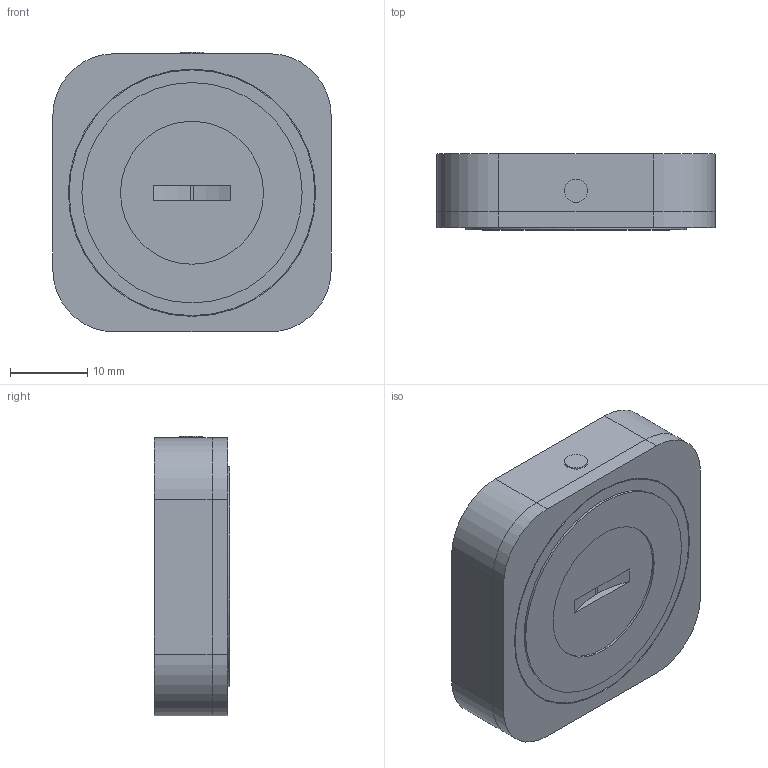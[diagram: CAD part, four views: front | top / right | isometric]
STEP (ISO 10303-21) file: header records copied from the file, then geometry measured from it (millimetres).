
FILE_DESCRIPTION(/* description */ (''),/* implementation_level */ '2;1');
FILE_NAME(/* name */ 'C:/Users/baumgaj6/Downloads/Xiaomi Aqara Sensor v11.step',/* time_stamp */ '2018-07-19T12:11:21+02:00',/* author */ ('baumgart.julian'),/* organization */ (''),/* preprocessor_version */ 'ST-DEVELOPER v17',/* originating_system */ 'Autodesk Translation Framework v7.1.0.215',/* authorisation */ '');
FILE_SCHEMA (('AUTOMOTIVE_DESIGN { 1 0 10303 214 3 1 1 }'));
Length unit declared in the file: millimetre
Products named in the file (1): Xiaomi Aqara Sensor
Bounding box: 36 x 9.8 x 36.2 mm (x, y, z)
Volume: 11871.4 mm3; surface area: 6338.8 mm2
Topology: 2 solids, 2 shells, 64 faces, 150 edges, 100 vertices
Faces by surface type: plane 36, cylinder 28
Full cylindrical faces by diameter (mm): 0.5 x1, 3 x1, 18.5 x1, 28.5 x1, 31.8 x1, 32 x1
Entity records: 1896 total; most frequent: DIRECTION 336, CARTESIAN_POINT 315, ORIENTED_EDGE 300, EDGE_CURVE 150, AXIS2_PLACEMENT_3D 121, VERTEX_POINT 100, LINE 94, VECTOR 94
